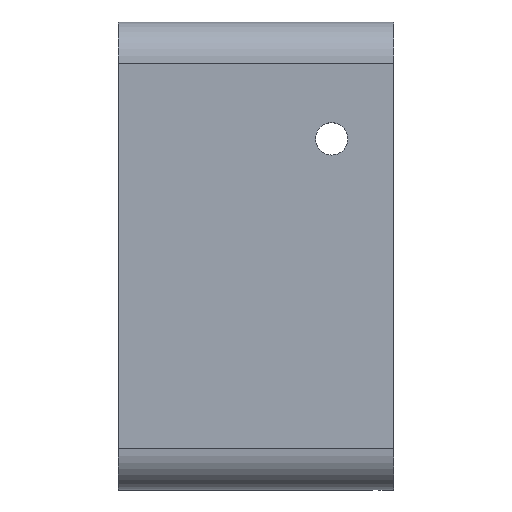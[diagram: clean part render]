
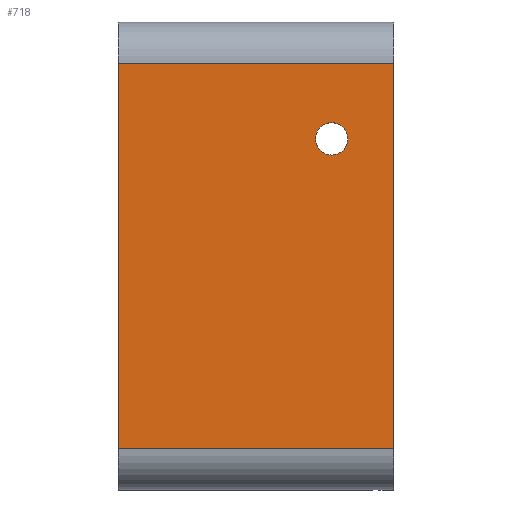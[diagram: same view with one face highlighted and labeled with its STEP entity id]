
A CAD part, top view. The second image highlights one B-rep face of the part: STEP entity #718.
In plain terms, the highlighted planar face has unit normal (0, 0, 1).
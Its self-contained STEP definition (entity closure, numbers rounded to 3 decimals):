
#1=CARTESIAN_POINT('',(31.,-17.,0.));
#2=DIRECTION('',(0.,0.,1.));
#3=DIRECTION('',(1.,0.,0.));
#4=AXIS2_PLACEMENT_3D('',#1,#2,#3);
#6=CARTESIAN_POINT('',(31.,-17.,0.));
#7=DIRECTION('',(0.,0.,1.));
#8=DIRECTION('',(-1.,0.,0.));
#9=AXIS2_PLACEMENT_3D('',#6,#7,#8);
#11=DIRECTION('',(-1.,0.,0.));
#12=VECTOR('',#11,40.);
#13=CARTESIAN_POINT('',(40.,-6.,0.));
#14=LINE('',#13,#12);
#15=DIRECTION('',(0.,-1.,0.));
#16=VECTOR('',#15,56.);
#17=CARTESIAN_POINT('',(40.,-6.,0.));
#18=LINE('',#17,#16);
#19=DIRECTION('',(-1.,0.,0.));
#20=VECTOR('',#19,40.);
#21=CARTESIAN_POINT('',(40.,-62.,0.));
#22=LINE('',#21,#20);
#457=DIRECTION('',(0.,-1.,0.));
#458=VECTOR('',#457,56.);
#459=CARTESIAN_POINT('',(0.,-6.,0.));
#460=LINE('',#459,#458);
#583=CARTESIAN_POINT('',(0.,-6.,0.));
#585=VERTEX_POINT('',#583);
#588=CARTESIAN_POINT('',(0.,-62.,0.));
#590=VERTEX_POINT('',#588);
#643=CARTESIAN_POINT('',(33.35,-17.,0.));
#644=CARTESIAN_POINT('',(28.65,-17.,0.));
#645=VERTEX_POINT('',#643);
#646=VERTEX_POINT('',#644);
#682=CARTESIAN_POINT('',(40.,-6.,0.));
#683=VERTEX_POINT('',#682);
#684=CARTESIAN_POINT('',(40.,-62.,0.));
#685=VERTEX_POINT('',#684);
#697=CARTESIAN_POINT('',(0.,0.,0.));
#698=DIRECTION('',(0.,0.,1.));
#699=DIRECTION('',(0.,-1.,0.));
#700=AXIS2_PLACEMENT_3D('',#697,#698,#699);
#701=PLANE('',#700);
#703=ORIENTED_EDGE('',*,*,#702,.F.);
#705=ORIENTED_EDGE('',*,*,#704,.T.);
#707=ORIENTED_EDGE('',*,*,#706,.T.);
#709=ORIENTED_EDGE('',*,*,#708,.F.);
#710=EDGE_LOOP('',(#703,#705,#707,#709));
#711=FACE_OUTER_BOUND('',#710,.F.);
#713=ORIENTED_EDGE('',*,*,#712,.T.);
#715=ORIENTED_EDGE('',*,*,#714,.T.);
#716=EDGE_LOOP('',(#713,#715));
#717=FACE_BOUND('',#716,.F.);
#718=ADVANCED_FACE('',(#711,#717),#701,.T.);
#5=CIRCLE('',#4,2.35);
#10=CIRCLE('',#9,2.35);
#702=EDGE_CURVE('',#683,#585,#14,.T.);
#704=EDGE_CURVE('',#683,#685,#18,.T.);
#706=EDGE_CURVE('',#685,#590,#22,.T.);
#708=EDGE_CURVE('',#585,#590,#460,.T.);
#712=EDGE_CURVE('',#645,#646,#5,.T.);
#714=EDGE_CURVE('',#646,#645,#10,.T.);
